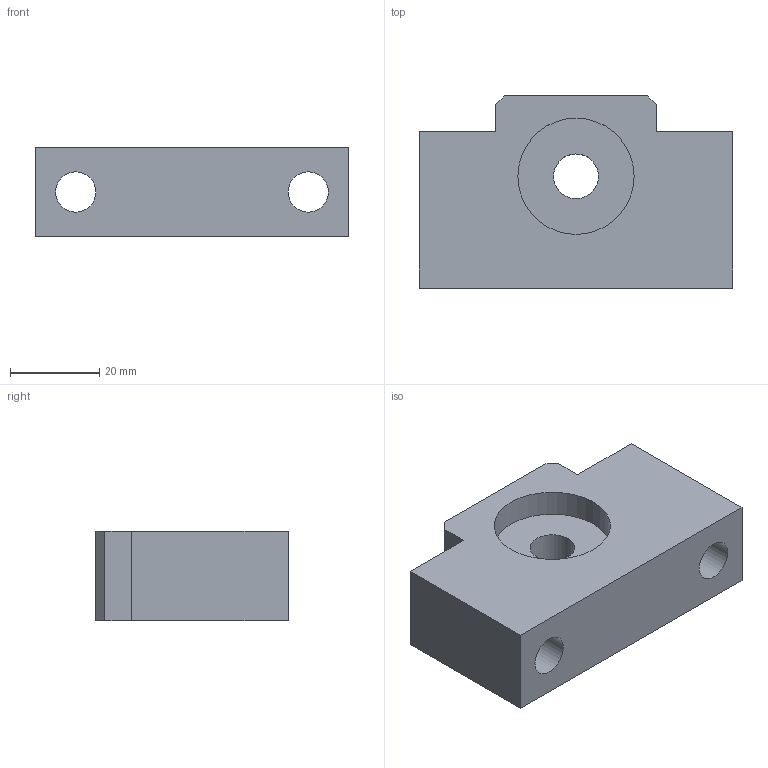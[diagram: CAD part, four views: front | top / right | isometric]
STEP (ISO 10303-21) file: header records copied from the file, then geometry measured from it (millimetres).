
FILE_DESCRIPTION(/* description */ (''),/* implementation_level */ '2;1');
FILE_NAME(/* name */ 'C:\Users\tenki620635\Desktop\官網\圖面\軸承座\3D\setp檔\AF12.stp',/* time_stamp */ '2020-11-20T17:27:40+08:00',/* author */ ('tenki620635'),/* organization */ (''),/* preprocessor_version */ 'ST-DEVELOPER v15.2',/* originating_system */ 'Autodesk Inventor 2014',/* authorisation */ '');
FILE_SCHEMA (('AUTOMOTIVE_DESIGN { 1 0 10303 214 3 1 1 }'));
Length unit declared in the file: millimetre
Products named in the file (1): AF12
Bounding box: 70 x 43 x 20 mm (x, y, z)
Volume: 41240.3 mm3; surface area: 13085.9 mm2
Topology: 1 solids, 1 shells, 23 faces, 51 edges, 34 vertices
Faces by surface type: plane 16, cylinder 7
Full cylindrical faces by diameter (mm): 9 x2, 10 x1, 14 x2, 26 x2
Entity records: 637 total; most frequent: DIRECTION 106, CARTESIAN_POINT 102, ORIENTED_EDGE 88, EDGE_CURVE 44, EDGE_LOOP 40, AXIS2_PLACEMENT_3D 38, VERTEX_POINT 34, LINE 30
